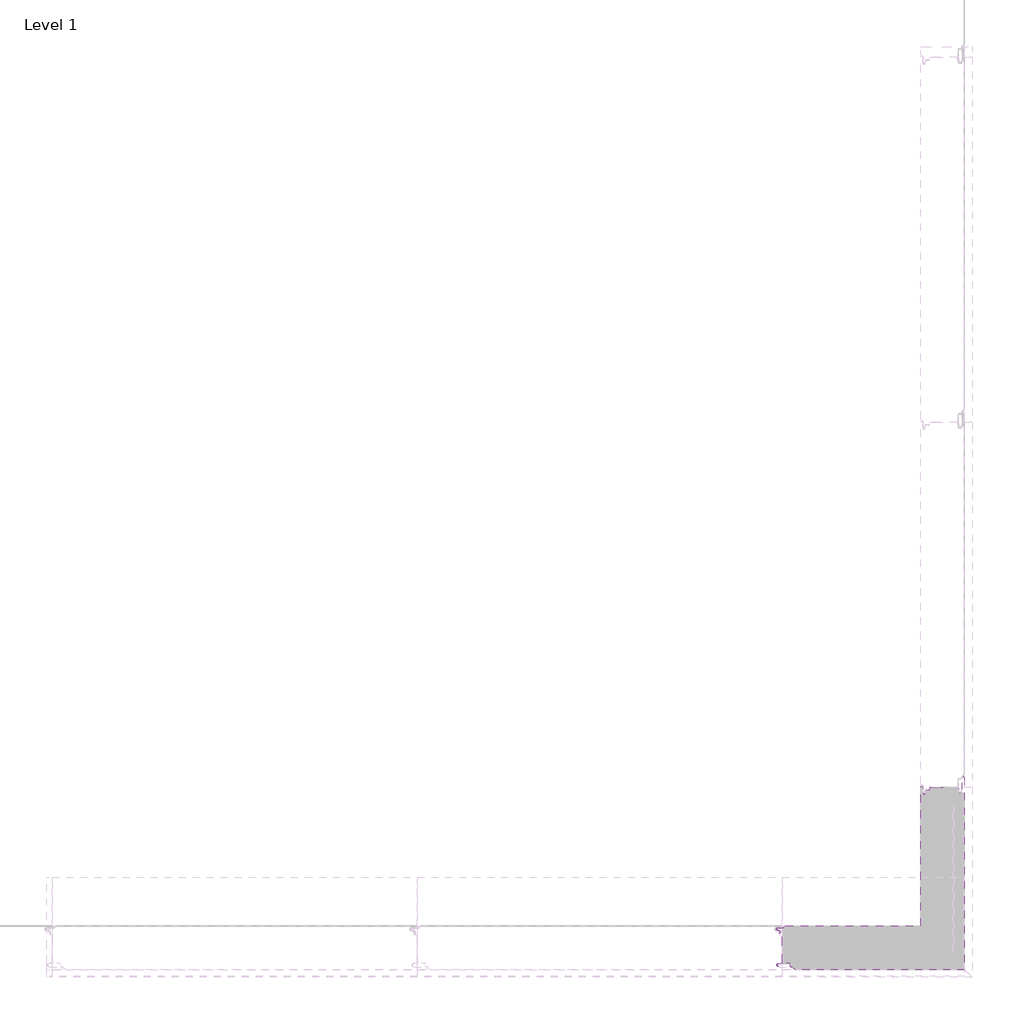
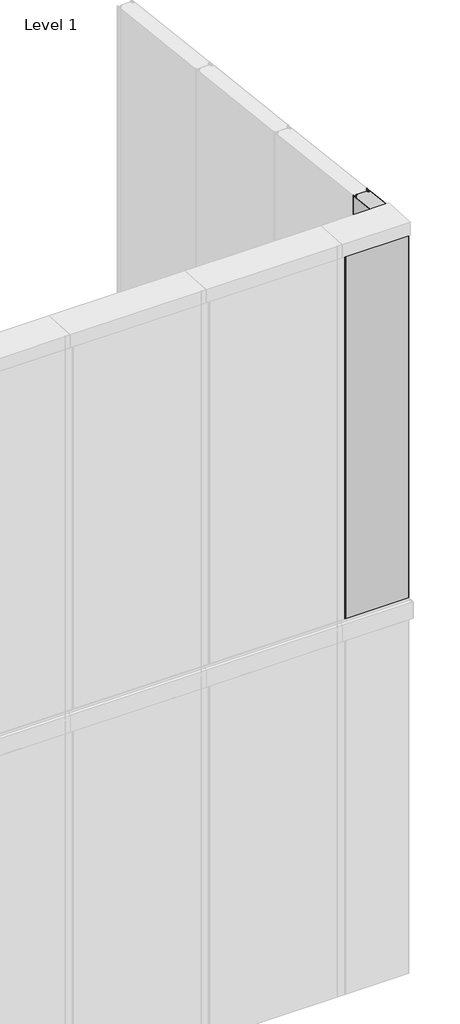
# One storey, part 5 of 12: 1 plate.
"""IFC4 building model written with IfcOpenShell, lengths in millimetres."""

from ifc_helpers import new_model, si_unit, point, frame, frame_2d, origin, place, context, project, spatial, polyline, circle_curve, ellipse_curve, trimmed, segment, composite_curve, outline, extrude, element, save
from ifc_brep_helpers import plane_surface, cylinder_surface, revolved_surface, advanced_brep

model = new_model("IFC4")

# Units and contexts
model_context = context("Model", 3, world=origin())
ifc_project = project(units=[si_unit("LENGTHUNIT", "METRE", prefix="MILLI")], contexts=[model_context])

# Site, building, storey
site = spatial("IfcSite", under=ifc_project)
building = spatial("IfcBuilding", under=site)
storey = spatial("IfcBuildingStorey", under=building, Name="Level 1", Elevation=0.0)

# Plate
placement = place(None, origin())
element("IfcPlate", 1, ObjectType="TR_C_V_FHL_Corner_Long_B : 120/RAL9006/RAL9002", at=placement, inside=storey, context=model_context, shape_type="SolidModel", body=[
    extrude(outline(composite_curve([segment(polyline([(-4113.3155057, 4088.8069121), (-4483.9373314, 4088.8069121)]), True, "CONTINUOUS"), segment(trimmed(circle_curve(frame_2d((-4483.9373314, 4086.6069121)), 2.2), [point((-4483.9373314, 4088.8069121))], [point((-4485.4929663, 4088.162547))], True, "CARTESIAN"), True, "CONTINUOUS"), segment(polyline([(-4485.4929663, 4088.162547), (-4489.8820536, 4083.7734598)]), True, "CONTINUOUS"), segment(trimmed(circle_curve(frame_2d((-4492.215506, 4086.1069121)), 3.3), [point((-4489.8820536, 4083.7734598))], [point((-4492.215506, 4082.8069121))], False, "CARTESIAN"), True, "CONTINUOUS"), segment(polyline([(-4492.215506, 4082.8069121), (-4506.965506, 4082.8069121)]), True, "CONTINUOUS"), segment(trimmed(circle_curve(frame_2d((-4506.965506, 4080.3569121)), 2.45), [point((-4506.965506, 4082.8069121))], [point((-4507.390944, 4077.9441331))], True, "CARTESIAN"), True, "CONTINUOUS"), segment(polyline([(-4507.390944, 4077.9441331), (-4503.1754067, 4077.2008202)]), True, "CONTINUOUS"), segment(trimmed(circle_curve(frame_2d((-4503.965506, 4072.7199449)), 4.55), [point((-4503.1754067, 4077.2008202))], [point((-4499.415506, 4072.7199449))], False, "CARTESIAN"), True, "CONTINUOUS"), segment(polyline([(-4499.415506, 4072.7199449), (-4499.415506, 4068.6069121), (-4500.215506, 4068.6069121), (-4500.215506, 4072.7199449)]), True, "CONTINUOUS"), segment(trimmed(circle_curve(frame_2d((-4503.965506, 4072.7199449)), 3.75), [point((-4500.215506, 4072.7199449))], [point((-4503.3143253, 4076.412974))], True, "CARTESIAN"), True, "CONTINUOUS"), segment(polyline([(-4503.3143253, 4076.412974), (-4507.5298625, 4077.1562869)]), True, "CONTINUOUS"), segment(trimmed(circle_curve(frame_2d((-4506.965506, 4080.3569121)), 3.25), [point((-4507.5298625, 4077.1562869))], [point((-4506.965506, 4083.6069121))], False, "CARTESIAN"), True, "CONTINUOUS"), segment(polyline([(-4506.965506, 4083.6069121), (-4492.215506, 4083.6069121)]), True, "CONTINUOUS"), segment(trimmed(circle_curve(frame_2d((-4492.215506, 4086.1069121)), 2.5), [point((-4492.215506, 4083.6069121))], [point((-4490.447739, 4084.3391452))], True, "CARTESIAN"), True, "CONTINUOUS"), segment(polyline([(-4490.447739, 4084.3391452), (-4486.0586517, 4088.7282325)]), True, "CONTINUOUS"), segment(trimmed(circle_curve(frame_2d((-4483.9373314, 4086.6069121)), 3.0), [point((-4486.0586517, 4088.7282325))], [point((-4483.9373314, 4089.6069121))], False, "CARTESIAN"), True, "CONTINUOUS"), segment(polyline([(-4483.9373314, 4089.6069121), (-4114.1155057, 4089.6069121), (-4113.3155057, 4088.8069121)]), True, "CONTINUOUS")], self_intersect=False)), frame((0.0, 0.0, 3000.0), z_axis=(0.0, 0.0, 1.0), x_axis=(1.0, 0.0, 0.0)), (0.0, 0.0, 1.0), 2980.0),
    extrude(outline(composite_curve([segment(polyline([(-3994.1155058, 3969.6069121), (-4457.5525855, 3969.6069121)]), True, "CONTINUOUS"), segment(trimmed(circle_curve(frame_2d((-4457.5525855, 3972.3069121)), 2.7), [point((-4457.5525855, 3969.6069121))], [point((-4459.4617738, 3970.3977238))], False, "CARTESIAN"), True, "CONTINUOUS"), segment(polyline([(-4459.4617738, 3970.3977238), (-4464.2851757, 3975.2211257)]), True, "CONTINUOUS"), segment(trimmed(circle_curve(frame_2d((-4465.6993893, 3973.8069121)), 2.0), [point((-4464.2851757, 3975.2211257))], [point((-4465.6993893, 3975.8069121))], True, "CARTESIAN"), True, "CONTINUOUS"), segment(polyline([(-4465.6993893, 3975.8069121), (-4468.5155058, 3975.8069121)]), True, "CONTINUOUS"), segment(trimmed(circle_curve(frame_2d((-4468.5155058, 3978.5069121)), 2.7), [point((-4468.5155058, 3975.8069121))], [point((-4471.2155058, 3978.5069121))], False, "CARTESIAN"), True, "CONTINUOUS"), segment(polyline([(-4471.2155058, 3978.5069121), (-4471.2155058, 3984.4069121)]), True, "CONTINUOUS"), segment(trimmed(circle_curve(frame_2d((-4473.2155058, 3984.4069121)), 2.0), [point((-4471.2155058, 3984.4069121))], [point((-4473.2155058, 3986.4069121))], True, "CARTESIAN"), True, "CONTINUOUS"), segment(polyline([(-4473.2155058, 3986.4069121), (-4492.3155058, 3986.4069121), (-4504.7944042, 3985.31515)]), True, "CONTINUOUS"), segment(trimmed(circle_curve(frame_2d((-4504.5155058, 3982.127327)), 3.2), [point((-4504.7944042, 3985.31515))], [point((-4505.5573239, 3979.1016675))], True, "CARTESIAN"), True, "CONTINUOUS"), segment(polyline([(-4505.5573239, 3979.1016675), (-4504.658139, 3978.7920533), (-4504.9185935, 3978.0356385), (-4505.8177784, 3978.3452527)]), True, "CONTINUOUS"), segment(trimmed(circle_curve(frame_2d((-4504.5155058, 3982.127327)), 4.0), [point((-4505.8177784, 3978.3452527))], [point((-4504.8641288, 3986.1121057))], False, "CARTESIAN"), True, "CONTINUOUS"), segment(polyline([(-4504.8641288, 3986.1121057), (-4492.3504346, 3987.2069121), (-4473.2155058, 3987.2069121)]), True, "CONTINUOUS"), segment(trimmed(circle_curve(frame_2d((-4473.2155058, 3984.4069121)), 2.8), [point((-4473.2155058, 3987.2069121))], [point((-4470.4155058, 3984.4069121))], False, "CARTESIAN"), True, "CONTINUOUS"), segment(polyline([(-4470.4155058, 3984.4069121), (-4470.4155058, 3978.5069121)]), True, "CONTINUOUS"), segment(trimmed(circle_curve(frame_2d((-4468.5155058, 3978.5069121)), 1.9), [point((-4470.4155058, 3978.5069121))], [point((-4468.5155058, 3976.6069121))], True, "CARTESIAN"), True, "CONTINUOUS"), segment(polyline([(-4468.5155058, 3976.6069121), (-4465.6993893, 3976.6069121)]), True, "CONTINUOUS"), segment(trimmed(circle_curve(frame_2d((-4465.6993893, 3973.8069121)), 2.8), [point((-4465.6993893, 3976.6069121))], [point((-4463.7194903, 3975.7868111))], False, "CARTESIAN"), True, "CONTINUOUS"), segment(polyline([(-4463.7194903, 3975.7868111), (-4458.8960884, 3970.9634092)]), True, "CONTINUOUS"), segment(trimmed(circle_curve(frame_2d((-4457.5525855, 3972.3069121)), 1.9), [point((-4458.8960884, 3970.9634092))], [point((-4457.5525855, 3970.4069121))], True, "CARTESIAN"), True, "CONTINUOUS"), segment(polyline([(-4457.5525855, 3970.4069121), (-3994.9155057, 3970.4069121), (-3994.1155058, 3969.6069121)]), True, "CONTINUOUS")], self_intersect=False)), frame((0.0, 0.0, 3000.0), z_axis=(0.0, 0.0, 1.0), x_axis=(1.0, 0.0, 0.0)), (0.0, 0.0, 1.0), 2980.0),
    advanced_brep(
    [(-3994.9741101, 4496.682184, 3000.0), (-3996.9197088, 4498.4964842, 3000.0), (-3996.9197088, 4498.4964842, 5932.4547009), (-3994.9741101, 4496.682184, 5932.6656661), (-3994.1155057, 3969.606912, 3000.0), (-3994.9155057, 3970.4069121, 3000.0), (-3994.9155057, 4494.707529, 3000.0), (-3995.5197088, 4496.0971011, 3000.0), (-3997.4653075, 4497.9114012, 3000.0), (-3999.3155057, 4497.1069121, 3000.0), (-3999.3155057, 4464.7801839, 3000.0), (-3999.4952944, 4463.705809, 3000.0), (-4001.8344941, 4456.9122797, 3000.0), (-4011.3488891, 4458.0805005, 3000.0), (-4012.2128026, 4467.9550769, 3000.0), (-4013.9063336, 4469.5069121, 3000.0), (-4014.9155057, 4469.5069121, 3000.0), (-4014.9155057, 4470.3069121, 3000.0), (-4013.9063336, 4470.3069121, 3000.0), (-4011.4158468, 4468.0248015, 3000.0), (-4010.5519334, 4458.1502251, 3000.0), (-4002.5909089, 4457.1727343, 3000.0), (-4000.2517092, 4463.9662635, 3000.0), (-4000.1155057, 4464.7801839, 3000.0), (-4000.1155057, 4497.1069121, 3000.0), (-3994.1155057, 4494.707529, 3000.0), (-3994.1155057, 3969.606912, 5980.0), (-3994.9155057, 3970.4069121, 5980.0), (-3994.1155057, 4494.707529, 5932.8952771), (-3994.1155057, 4089.6069121, 5980.0), (-4000.1155057, 4497.1069121, 5932.6162791), (-4000.1155057, 4464.7801839, 5936.375201), (-4000.2517092, 4463.9662635, 5936.4698429), (-4002.5909089, 4457.1727343, 5937.2597881), (-4010.5519334, 4458.1502251, 5937.1461264), (-4011.4158468, 4468.0248015, 5935.9979198), (-4013.9063336, 4470.3069121, 5935.7325581), (-4014.9155057, 4470.3069121, 5935.7325581), (-4014.9155057, 4469.5069121, 5935.8255814), (-4013.9063336, 4469.5069121, 5935.8255814), (-4012.2128026, 4467.9550769, 5936.0060274), (-4011.3488891, 4458.0805005, 5937.1542339), (-4001.8344941, 4456.9122797, 5937.2900735), (-3999.4952944, 4463.705809, 5936.5001283), (-3999.3155057, 4464.7801839, 5936.375201), (-3999.3155057, 4497.1069121, 5932.6162791), (-3997.4653075, 4497.9114012, 5932.5227338), (-3995.5197088, 4496.0971011, 5932.733699), (-3994.9155057, 4494.707529, 5932.8952771), (-3994.9155057, 4089.6069121, 5980.0)],
    [
        (0, 1),
        (1, 2),
        (2, 3),
        (3, 0),
        (4, 5),
        (5, 6),
        (6, 7, circle_curve(frame((-3996.8155057, 4494.707529, 3000.0), z_axis=(0.0, 0.0, 1.0), x_axis=(0.0, 1.0, 0.0)), 1.9)),
        (7, 8),
        (8, 9, circle_curve(frame((-3998.2155057, 4497.1069121, 3000.0), z_axis=(0.0, 0.0, 1.0), x_axis=(0.0, 1.0, 0.0)), 1.1)),
        (9, 10),
        (10, 11, circle_curve(frame((-4002.6155057, 4464.7801839, 3000.0), z_axis=(0.0, 0.0, -1.0), x_axis=(0.0, 1.0, 0.0)), 3.3)),
        (11, 12),
        (12, 13, circle_curve(frame((-4006.4675351, 4458.5075637, 3000.0), z_axis=(0.0, 0.0, -1.0), x_axis=(0.0, 1.0, 0.0)), 4.9)),
        (13, 14),
        (14, 15, circle_curve(frame((-4013.9063336, 4467.8069121, 3000.0), z_axis=(0.0, 0.0, 1.0), x_axis=(0.0, 1.0, 0.0)), 1.7)),
        (15, 16),
        (16, 17),
        (17, 18),
        (18, 19, circle_curve(frame((-4013.9063336, 4467.8069121, 3000.0), z_axis=(0.0, 0.0, -1.0), x_axis=(0.0, 1.0, 0.0)), 2.5)),
        (19, 20),
        (20, 21, circle_curve(frame((-4006.4675351, 4458.5075637, 3000.0), z_axis=(0.0, 0.0, 1.0), x_axis=(0.0, 1.0, 0.0)), 4.1)),
        (21, 22),
        (22, 23, circle_curve(frame((-4002.6155057, 4464.7801839, 3000.0), z_axis=(0.0, 0.0, 1.0), x_axis=(0.0, 1.0, 0.0)), 2.5)),
        (23, 24),
        (24, 1, circle_curve(frame((-3998.2155057, 4497.1069121, 3000.0), z_axis=(0.0, 0.0, -1.0), x_axis=(0.0, 1.0, 0.0)), 1.9)),
        (0, 25, circle_curve(frame((-3996.8155057, 4494.707529, 3000.0), z_axis=(0.0, 0.0, -1.0), x_axis=(0.0, 1.0, 0.0)), 2.7)),
        (25, 4),
        (26, 27),
        (27, 5),
        (4, 26),
        (25, 28),
        (28, 29),
        (29, 26),
        (3, 28, ellipse_curve(frame((-3996.8155057, 4494.707529, 5932.8952771), z_axis=(0.0, -0.1155008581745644, -0.9933073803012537), x_axis=(0.0, -0.9933073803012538, 0.11550085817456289)), 2.7181918, 2.7)),
        (2, 30, ellipse_curve(frame((-3998.2155057, 4497.1069121, 5932.6162791), z_axis=(0.0, 0.1155008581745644, 0.9933073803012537), x_axis=(0.0, -0.9933073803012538, 0.11550085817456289)), 1.9128017, 1.9)),
        (30, 31),
        (31, 32, ellipse_curve(frame((-4002.6155057, 4464.7801839, 5936.375201), z_axis=(0.0, -0.1155008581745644, -0.9933073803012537), x_axis=(0.0, 0.9933073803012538, -0.11550085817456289)), 2.5168443, 2.5)),
        (32, 33),
        (33, 34, ellipse_curve(frame((-4006.4675351, 4458.5075637, 5937.1045754), z_axis=(0.0, -0.1155008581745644, -0.9933073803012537), x_axis=(0.0, 0.9933073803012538, -0.11550085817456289)), 4.1276246, 4.1)),
        (34, 35),
        (35, 36, ellipse_curve(frame((-4013.9063336, 4467.8069121, 5936.0232558), z_axis=(0.0, 0.1155008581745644, 0.9933073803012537), x_axis=(0.0, -0.9933073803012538, 0.11550085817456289)), 2.5168443, 2.5)),
        (36, 37),
        (37, 38),
        (38, 39),
        (39, 40, ellipse_curve(frame((-4013.9063336, 4467.8069121, 5936.0232558), z_axis=(0.0, -0.1155008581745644, -0.9933073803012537), x_axis=(0.0, 0.9933073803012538, -0.11550085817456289)), 1.7114541, 1.7)),
        (40, 41),
        (41, 42, ellipse_curve(frame((-4006.4675351, 4458.5075637, 5937.1045754), z_axis=(0.0, 0.1155008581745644, 0.9933073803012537), x_axis=(0.0, -0.9933073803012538, 0.11550085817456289)), 4.9330148, 4.9)),
        (42, 43),
        (43, 44, ellipse_curve(frame((-4002.6155057, 4464.7801839, 5936.375201), z_axis=(0.0, 0.1155008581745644, 0.9933073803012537), x_axis=(0.0, -0.9933073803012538, 0.11550085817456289)), 3.3222345, 3.3)),
        (44, 45),
        (45, 46, ellipse_curve(frame((-3998.2155057, 4497.1069121, 5932.6162791), z_axis=(0.0, -0.1155008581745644, -0.9933073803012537), x_axis=(0.0, 0.9933073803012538, -0.11550085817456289)), 1.1074115, 1.1)),
        (46, 47),
        (47, 48, ellipse_curve(frame((-3996.8155057, 4494.707529, 5932.8952771), z_axis=(0.0, -0.1155008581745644, -0.9933073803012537), x_axis=(0.0, 0.9933073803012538, -0.11550085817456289)), 1.9128017, 1.9)),
        (48, 49),
        (49, 29),
        (49, 27),
        (48, 6),
        (24, 30),
        (23, 31),
        (22, 32),
        (21, 33),
        (20, 34),
        (19, 35),
        (18, 36),
        (17, 37),
        (16, 38),
        (15, 39),
        (14, 40),
        (13, 41),
        (12, 42),
        (11, 43),
        (10, 44),
        (9, 45),
        (8, 46),
        (7, 47),
    ],
    [
        plane_surface(frame((-3994.9741101, 4496.682184, 5980.0), z_axis=(0.6819983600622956, 0.7313537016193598, 0.0), x_axis=(0.0, 0.0, -1.0))),
        plane_surface(frame((-3994.1155057, 4494.707529, 3000.0), z_axis=(0.0, 0.0, -1.0), x_axis=(0.0, -1.0, 0.0))),
        plane_surface(frame((-3994.9155057, 3970.4069121, 5980.0), z_axis=(-0.7071068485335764, -0.7071067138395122, 0.0), x_axis=(0.0, 0.0, -1.0))),
        plane_surface(frame((-3994.1155057, 3969.606912, 5980.0), z_axis=(1.0, 0.0, 0.0), x_axis=(0.0, 0.0, -1.0))),
        cylinder_surface(frame((-3996.8155057, 4494.707529, 3000.0), z_axis=(0.0, 0.0, 1.0), x_axis=(0.0, 1.0, 0.0)), 2.7),
        plane_surface(frame((-3994.1155057, 6239.6069121, 5730.0), z_axis=(0.0, 0.1155008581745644, 0.9933073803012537), x_axis=(0.0, -0.9933073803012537, 0.1155008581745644))),
        plane_surface(frame((-3994.1155057, 4494.707529, 5980.0), z_axis=(0.0, 0.0, 1.0), x_axis=(0.0, 1.0, 0.0))),
        plane_surface(frame((-3994.9155057, 4494.707529, 5980.0), z_axis=(-1.0, 0.0, 0.0), x_axis=(0.0, 0.0, -1.0))),
        cylinder_surface(frame((-3998.2155057, 4497.1069121, 3000.0), z_axis=(0.0, 0.0, 1.0), x_axis=(0.0, 1.0, 0.0)), 1.9),
        plane_surface(frame((-4000.1155057, 4497.1069121, 5980.0), z_axis=(-1.0, 0.0, 0.0), x_axis=(0.0, 0.0, -1.0))),
        revolved_surface(polyline([(-4002.6155057, 4467.2801839, 3000.0), (-4002.6155057, 4467.2801839, 5936.6658986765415)]), (-4002.6155057, 4464.7801839, 3000.0), (0.0, 0.0, -1.0)),
        plane_surface(frame((-4000.2517092, 4463.9662635, 5980.0), z_axis=(-0.9455185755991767, 0.3255681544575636, 0.0), x_axis=(0.0, 0.0, -1.0))),
        revolved_surface(polyline([(-4006.4675351, 4462.6075637, 3000.0), (-4006.4675351, 4462.6075637, 5937.581319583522)]), (-4006.4675351, 4458.5075637, 3000.0), (0.0, 0.0, -1.0)),
        plane_surface(frame((-4010.5519334, 4458.1502251, 5980.0), z_axis=(0.9961946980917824, 0.08715574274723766, 0.0), x_axis=(0.0, 0.0, -1.0))),
        cylinder_surface(frame((-4013.9063336, 4467.8069121, 3000.0), z_axis=(0.0, 0.0, 1.0), x_axis=(0.0, 1.0, 0.0)), 2.5),
        plane_surface(frame((-4013.9063336, 4470.3069121, 5980.0), z_axis=(0.0, 1.0, 0.0), x_axis=(0.0, 0.0, -1.0))),
        plane_surface(frame((-4014.9155057, 4470.3069121, 5980.0), z_axis=(-1.0, 0.0, 0.0), x_axis=(0.0, 0.0, -1.0))),
        plane_surface(frame((-4014.9155057, 4469.5069121, 5980.0), z_axis=(0.0, -1.0, 0.0), x_axis=(0.0, 0.0, -1.0))),
        revolved_surface(polyline([(-4013.9063336, 4469.5069121, 3000.0), (-4013.9063336, 4469.5069121, 5936.220930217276)]), (-4013.9063336, 4467.8069121, 3000.0), (0.0, 0.0, -1.0)),
        plane_surface(frame((-4012.2128026, 4467.9550769, 5980.0), z_axis=(-0.9961946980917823, -0.08715574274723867, 0.0), x_axis=(0.0, 0.0, -1.0))),
        cylinder_surface(frame((-4006.4675351, 4458.5075637, 3000.0), z_axis=(0.0, 0.0, 1.0), x_axis=(0.0, 1.0, 0.0)), 4.9),
        plane_surface(frame((-4001.8344941, 4456.9122797, 5980.0), z_axis=(0.9455185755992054, -0.3255681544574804, 0.0), x_axis=(0.0, 0.0, -1.0))),
        cylinder_surface(frame((-4002.6155057, 4464.7801839, 3000.0), z_axis=(0.0, 0.0, 1.0), x_axis=(0.0, 1.0, 0.0)), 3.3),
        plane_surface(frame((-3999.3155057, 4464.7801839, 5980.0), z_axis=(1.0, 0.0, 0.0), x_axis=(0.0, 0.0, -1.0))),
        revolved_surface(polyline([(-3998.2155057, 4498.2069121, 3000.0), (-3998.2155057, 4498.2069121, 5932.744186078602)]), (-3998.2155057, 4497.1069121, 3000.0), (0.0, 0.0, -1.0)),
        plane_surface(frame((-3997.4653075, 4497.9114012, 5980.0), z_axis=(-0.6819983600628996, -0.7313537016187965, 0.0), x_axis=(0.0, 0.0, -1.0))),
        revolved_surface(polyline([(-3996.8155057, 4496.607529, 3000.0), (-3996.8155057, 4496.607529, 5933.116207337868)]), (-3996.8155057, 4494.707529, 3000.0), (0.0, 0.0, -1.0)),
    ],
    [
        (0, [[1, 2, 3, 4]]),
        (1, [[5, 6, 7, 8, 9, 10, 11, 12, 13, 14, 15, 16, 17, 18, 19, 20, 21, 22, 23, 24, 25, -1, 26, 27]]),
        (2, [[28, 29, -5, 30]]),
        (3, [[-30, -27, 31, 32, 33]]),
        (4, [[-26, -4, 34, -31]]),
        (5, [[-3, 35, 36, 37, 38, 39, 40, 41, 42, 43, 44, 45, 46, 47, 48, 49, 50, 51, 52, 53, 54, 55, -32, -34]]),
        (6, [[-28, -33, -55, 56]]),
        (7, [[-29, -56, -54, 57, -6]]),
        (8, [[-25, 58, -35, -2]]),
        (9, [[-24, 59, -36, -58]]),
        (10, [[-23, 60, -37, -59]]),
        (11, [[-22, 61, -38, -60]]),
        (12, [[-21, 62, -39, -61]]),
        (13, [[-20, 63, -40, -62]]),
        (14, [[-19, 64, -41, -63]]),
        (15, [[-18, 65, -42, -64]]),
        (16, [[-17, 66, -43, -65]]),
        (17, [[-16, 67, -44, -66]]),
        (18, [[-15, 68, -45, -67]]),
        (19, [[-14, 69, -46, -68]]),
        (20, [[-13, 70, -47, -69]]),
        (21, [[-12, 71, -48, -70]]),
        (22, [[-11, 72, -49, -71]]),
        (23, [[-10, 73, -50, -72]]),
        (24, [[-9, 74, -51, -73]]),
        (25, [[-8, 75, -52, -74]]),
        (26, [[-7, -57, -53, -75]]),
    ],
),
    advanced_brep(
    [(-4099.4132474, 4459.2691743, 3000.0), (-4096.5080645, 4461.7069121, 3000.0), (-4096.5080645, 4461.7069121, 5936.7325581), (-4099.4132474, 4459.2691743, 5937.016016), (-4113.3155057, 4088.8069121, 3000.0), (-4114.1155057, 4089.6069121, 3000.0), (-4114.1155057, 4469.1255413, 3000.0), (-4113.3100493, 4471.0700849, 3000.0), (-4111.4443639, 4472.9357704, 3000.0), (-4108.1155057, 4471.5569121, 3000.0), (-4108.1155057, 4453.9569121, 3000.0), (-4101.2679189, 4453.3578259, 3000.0), (-4100.2010936, 4459.4080928, 3000.0), (-4096.5080645, 4462.5069121, 3000.0), (-4093.1155057, 4462.5069121, 3000.0), (-4093.1155057, 4461.7069121, 3000.0), (-4100.4800727, 4453.2189074, 3000.0), (-4108.9155057, 4453.9569121, 3000.0), (-4108.9155057, 4471.5569121, 3000.0), (-4110.8786785, 4472.3700849, 3000.0), (-4112.7443639, 4470.5043995, 3000.0), (-4113.3155057, 4469.1255413, 3000.0), (-4093.1155057, 4461.7069121, 5936.7325581), (-4093.1155057, 4462.5069121, 5936.6395349), (-4096.5080645, 4462.5069121, 5936.6395349), (-4100.2010936, 4459.4080928, 5936.9998627), (-4101.2679189, 4453.3578259, 5937.7033821), (-4108.1155057, 4453.9569121, 5937.6337209), (-4108.1155057, 4471.5569121, 5935.5872093), (-4111.4443639, 4472.9357704, 5935.426877), (-4113.3100493, 4471.0700849, 5935.6438171), (-4114.1155057, 4469.1255413, 5935.8699268), (-4114.1155057, 4089.6069121, 5980.0), (-4113.3155057, 4089.6069121, 5980.0), (-4113.3155057, 4469.1255413, 5935.8699268), (-4112.7443639, 4470.5043995, 5935.7095945), (-4110.8786785, 4472.3700849, 5935.4926543), (-4108.9155057, 4471.5569121, 5935.5872093), (-4108.9155057, 4453.9569121, 5937.6337209), (-4100.4800727, 4453.2189074, 5937.7195354), (-4113.3155057, 4088.8069121, 5980.0)],
    [
        (0, 1, circle_curve(frame((-4096.5080645, 4458.7569121, 3000.0), z_axis=(0.0, 0.0, -1.0), x_axis=(0.0, 1.0, 0.0)), 2.95)),
        (1, 2),
        (2, 3, ellipse_curve(frame((-4096.5080645, 4458.7569121, 5937.0755814), z_axis=(0.0, 0.1155008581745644, 0.9933073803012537), x_axis=(0.0, 0.9933073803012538, -0.11550085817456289)), 2.9698763, 2.95)),
        (3, 0),
        (4, 5),
        (5, 6),
        (6, 7, circle_curve(frame((-4111.3655057, 4469.1255413, 3000.0), z_axis=(0.0, 0.0, -1.0), x_axis=(0.0, 1.0, 0.0)), 2.75)),
        (7, 8),
        (8, 9, circle_curve(frame((-4110.0655057, 4471.5569121, 3000.0), z_axis=(0.0, 0.0, -1.0), x_axis=(0.0, 1.0, 0.0)), 1.95)),
        (9, 10),
        (10, 11, circle_curve(frame((-4104.6655057, 4453.9569121, 3000.0), z_axis=(0.0, 0.0, 1.0), x_axis=(0.0, 1.0, 0.0)), 3.45)),
        (11, 12),
        (12, 13, circle_curve(frame((-4096.5080645, 4458.7569121, 3000.0), z_axis=(0.0, 0.0, -1.0), x_axis=(0.0, 1.0, 0.0)), 3.75)),
        (13, 14),
        (14, 15),
        (15, 1),
        (0, 16),
        (16, 17, circle_curve(frame((-4104.6655057, 4453.9569121, 3000.0), z_axis=(0.0, 0.0, -1.0), x_axis=(0.0, 1.0, 0.0)), 4.25)),
        (17, 18),
        (18, 19, circle_curve(frame((-4110.0655057, 4471.5569121, 3000.0), z_axis=(0.0, 0.0, 1.0), x_axis=(0.0, 1.0, 0.0)), 1.15)),
        (19, 20),
        (20, 21, circle_curve(frame((-4111.3655057, 4469.1255413, 3000.0), z_axis=(0.0, 0.0, 1.0), x_axis=(0.0, 1.0, 0.0)), 1.95)),
        (21, 4),
        (2, 22),
        (22, 23),
        (23, 24),
        (24, 25, ellipse_curve(frame((-4096.5080645, 4458.7569121, 5937.0755814), z_axis=(0.0, 0.1155008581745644, 0.9933073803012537), x_axis=(0.0, -0.9933073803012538, 0.11550085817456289)), 3.7752664, 3.75)),
        (25, 26),
        (26, 27, ellipse_curve(frame((-4104.6655057, 4453.9569121, 5937.6337209), z_axis=(0.0, -0.1155008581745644, -0.9933073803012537), x_axis=(0.0, 0.9933073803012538, -0.11550085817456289)), 3.4732451, 3.45)),
        (27, 28),
        (28, 29, ellipse_curve(frame((-4110.0655057, 4471.5569121, 5935.5872093), z_axis=(0.0, 0.1155008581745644, 0.9933073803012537), x_axis=(0.0, -0.9933073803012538, 0.11550085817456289)), 1.9631385, 1.95)),
        (29, 30),
        (30, 31, ellipse_curve(frame((-4111.3655057, 4469.1255413, 5935.8699268), z_axis=(0.0, 0.1155008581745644, 0.9933073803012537), x_axis=(0.0, -0.9933073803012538, 0.11550085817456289)), 2.7685287, 2.75)),
        (31, 32),
        (32, 33),
        (33, 34),
        (34, 35, ellipse_curve(frame((-4111.3655057, 4469.1255413, 5935.8699268), z_axis=(0.0, -0.1155008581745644, -0.9933073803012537), x_axis=(0.0, 0.9933073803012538, -0.11550085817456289)), 1.9631385, 1.95)),
        (35, 36),
        (36, 37, ellipse_curve(frame((-4110.0655057, 4471.5569121, 5935.5872093), z_axis=(0.0, -0.1155008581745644, -0.9933073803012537), x_axis=(0.0, 0.9933073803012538, -0.11550085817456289)), 1.1577484, 1.15)),
        (37, 38),
        (38, 39, ellipse_curve(frame((-4104.6655057, 4453.9569121, 5937.6337209), z_axis=(0.0, 0.1155008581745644, 0.9933073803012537), x_axis=(0.0, -0.9933073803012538, 0.11550085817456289)), 4.2786353, 4.25)),
        (39, 3),
        (32, 40),
        (40, 33),
        (5, 32),
        (31, 6),
        (4, 40),
        (21, 34),
        (20, 35),
        (19, 36),
        (18, 37),
        (17, 38),
        (16, 39),
        (15, 22),
        (14, 23),
        (13, 24),
        (11, 26),
        (25, 12),
        (10, 27),
        (9, 28),
        (8, 29),
        (7, 30),
    ],
    [
        revolved_surface(polyline([(-4096.5080645, 4461.7069120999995, 3000.0), (-4096.5080645, 4461.7069120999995, 5937.418604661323)]), (-4096.5080645, 4458.7569121, 3000.0), (0.0, 0.0, -1.0)),
        plane_surface(frame((-4113.3155057, 4469.1255413, 3000.0), z_axis=(0.0, 0.0, -1.0), x_axis=(0.0, -1.0, 0.0))),
        plane_surface(frame((-3994.1155057, 6239.6069121, 5730.0), z_axis=(0.0, 0.1155008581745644, 0.9933073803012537), x_axis=(0.0, -0.9933073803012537, 0.1155008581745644))),
        plane_surface(frame((-4113.3155057, 4469.1255413, 5980.0), z_axis=(0.0, 0.0, 1.0), x_axis=(0.0, 1.0, 0.0))),
        plane_surface(frame((-4114.1155057, 4469.1255413, 5980.0), z_axis=(-1.0, 0.0, 0.0), x_axis=(0.0, 0.0, -1.0))),
        plane_surface(frame((-4114.1155057, 4089.6069121, 5980.0), z_axis=(-0.7071067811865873, -0.7071067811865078, 0.0), x_axis=(0.0, 0.0, -1.0))),
        plane_surface(frame((-4113.3155057, 4088.8069121, 5980.0), z_axis=(1.0, 0.0, 0.0), x_axis=(0.0, 0.0, -1.0))),
        revolved_surface(polyline([(-4111.3655057, 4471.0755413, 3000.0), (-4111.3655057, 4471.0755413, 5936.096670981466)]), (-4111.3655057, 4469.1255413, 3000.0), (0.0, 0.0, -1.0)),
        plane_surface(frame((-4112.7443639, 4470.5043995, 5980.0), z_axis=(0.7071067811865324, -0.7071067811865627, 0.0), x_axis=(0.0, 0.0, -1.0))),
        revolved_surface(polyline([(-4110.0655057, 4472.7069120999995, 3000.0), (-4110.0655057, 4472.7069120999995, 5935.720930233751)]), (-4110.0655057, 4471.5569121, 3000.0), (0.0, 0.0, -1.0)),
        plane_surface(frame((-4108.9155057, 4471.5569121, 5980.0), z_axis=(-1.0, 0.0, 0.0), x_axis=(0.0, 0.0, -1.0))),
        cylinder_surface(frame((-4104.6655057, 4453.9569121, 3000.0), z_axis=(0.0, 0.0, 1.0), x_axis=(0.0, 1.0, 0.0)), 4.25),
        plane_surface(frame((-4100.4800727, 4453.2189074, 5980.0), z_axis=(0.9848077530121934, -0.17364817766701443, 0.0), x_axis=(0.0, 0.0, -1.0))),
        plane_surface(frame((-4096.5080645, 4461.7069121, 5980.0), z_axis=(0.0, -1.0, 0.0), x_axis=(0.0, 0.0, -1.0))),
        plane_surface(frame((-4093.1155057, 4461.7069121, 5980.0), z_axis=(1.0, 0.0, 0.0), x_axis=(0.0, 0.0, -1.0))),
        plane_surface(frame((-4093.1155057, 4462.5069121, 5980.0), z_axis=(0.0, 1.0, 0.0), x_axis=(0.0, 0.0, -1.0))),
        plane_surface(frame((-4100.2010936, 4459.4080928, 5980.0), z_axis=(-0.9848077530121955, 0.173648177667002, 0.0), x_axis=(0.0, 0.0, -1.0))),
        revolved_surface(polyline([(-4104.6655057, 4457.4069121, 3000.0), (-4104.6655057, 4457.4069121, 5938.034883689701)]), (-4104.6655057, 4453.9569121, 3000.0), (0.0, 0.0, -1.0)),
        plane_surface(frame((-4108.1155057, 4453.9569121, 5980.0), z_axis=(1.0, 0.0, 0.0), x_axis=(0.0, 0.0, -1.0))),
        cylinder_surface(frame((-4110.0655057, 4471.5569121, 3000.0), z_axis=(0.0, 0.0, 1.0), x_axis=(0.0, 1.0, 0.0)), 1.95),
        plane_surface(frame((-4111.4443639, 4472.9357704, 5980.0), z_axis=(-0.7071067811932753, 0.7071067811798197, 0.0), x_axis=(0.0, 0.0, -1.0))),
        cylinder_surface(frame((-4111.3655057, 4469.1255413, 3000.0), z_axis=(0.0, 0.0, 1.0), x_axis=(0.0, 1.0, 0.0)), 2.75),
        cylinder_surface(frame((-4096.5080645, 4458.7569121, 3000.0), z_axis=(0.0, 0.0, 1.0), x_axis=(0.0, 1.0, 0.0)), 3.75),
    ],
    [
        (0, [[1, 2, 3, 4]]),
        (1, [[5, 6, 7, 8, 9, 10, 11, 12, 13, 14, 15, 16, -1, 17, 18, 19, 20, 21, 22, 23]]),
        (2, [[-3, 24, 25, 26, 27, 28, 29, 30, 31, 32, 33, 34, 35, 36, 37, 38, 39, 40, 41, 42]]),
        (3, [[43, 44, -35]]),
        (4, [[45, -34, 46, -6]]),
        (5, [[-45, -5, 47, -43]]),
        (6, [[-47, -23, 48, -36, -44]]),
        (7, [[-22, 49, -37, -48]]),
        (8, [[-21, 50, -38, -49]]),
        (9, [[-20, 51, -39, -50]]),
        (10, [[-19, 52, -40, -51]]),
        (11, [[-18, 53, -41, -52]]),
        (12, [[-17, -4, -42, -53]]),
        (13, [[-16, 54, -24, -2]]),
        (14, [[-15, 55, -25, -54]]),
        (15, [[-14, 56, -26, -55]]),
        (16, [[-12, 57, -28, 58]]),
        (17, [[-11, 59, -29, -57]]),
        (18, [[-10, 60, -30, -59]]),
        (19, [[-9, 61, -31, -60]]),
        (20, [[-8, 62, -32, -61]]),
        (21, [[-7, -46, -33, -62]]),
        (22, [[-13, -58, -27, -56]]),
    ],
),
    extrude(outline(composite_curve([segment(polyline([(-3994.9155057, 3970.4069121), (-4457.5525855, 3970.4069121)]), True, "CONTINUOUS"), segment(trimmed(circle_curve(frame_2d((-4457.5525855, 3972.3069121)), 1.9), [point((-4457.5525855, 3970.4069121))], [point((-4458.8960884, 3970.9634092))], False, "CARTESIAN"), True, "CONTINUOUS"), segment(polyline([(-4458.8960884, 3970.9634092), (-4463.7194903, 3975.7868111)]), True, "CONTINUOUS"), segment(trimmed(circle_curve(frame_2d((-4465.6993893, 3973.8069121)), 2.8), [point((-4463.7194903, 3975.7868111))], [point((-4465.6993893, 3976.6069121))], True, "CARTESIAN"), True, "CONTINUOUS"), segment(polyline([(-4465.6993893, 3976.6069121), (-4468.5155058, 3976.6069121)]), True, "CONTINUOUS"), segment(trimmed(circle_curve(frame_2d((-4468.5155058, 3978.5069121)), 1.9), [point((-4468.5155058, 3976.6069121))], [point((-4470.4155058, 3978.5069121))], False, "CARTESIAN"), True, "CONTINUOUS"), segment(polyline([(-4470.4155058, 3978.5069121), (-4470.4155058, 3984.4069121)]), True, "CONTINUOUS"), segment(trimmed(circle_curve(frame_2d((-4473.2155058, 3984.4069121)), 2.8), [point((-4470.4155058, 3984.4069121))], [point((-4473.2155058, 3987.2069121))], True, "CARTESIAN"), True, "CONTINUOUS"), segment(polyline([(-4473.2155058, 3987.2069121), (-4492.3504346, 3987.2069121), (-4494.1155061, 3987.0524884), (-4494.1155061, 4082.8069121), (-4492.2155058, 4082.8069121)]), True, "CONTINUOUS"), segment(trimmed(circle_curve(frame_2d((-4492.2155058, 4086.1069121)), 3.3), [point((-4492.2155058, 4082.8069121))], [point((-4489.8820534, 4083.7734598))], True, "CARTESIAN"), True, "CONTINUOUS"), segment(polyline([(-4489.8820534, 4083.7734598), (-4485.4929661, 4088.162547)]), True, "CONTINUOUS"), segment(trimmed(circle_curve(frame_2d((-4483.9373312, 4086.6069121)), 2.2), [point((-4485.4929661, 4088.162547))], [point((-4483.9373312, 4088.8069121))], False, "CARTESIAN"), True, "CONTINUOUS"), segment(polyline([(-4483.9373312, 4088.8069121), (-4113.3155057, 4088.8069121), (-3994.9155057, 3970.4069121)]), True, "CONTINUOUS")], self_intersect=False)), frame((0.0, 0.0, 3000.0), z_axis=(0.0, 0.0, 1.0), x_axis=(1.0, 0.0, 0.0)), (0.0, 0.0, 1.0), 2980.0),
    advanced_brep(
    [(-4113.3155057, 4089.6069121, 5980.0), (-3994.9155057, 4089.6069121, 5980.0), (-3994.9155057, 4453.6075637, 5937.6743428), (-4006.4675351, 4453.6075637, 5937.6743428), (-4011.3488891, 4458.0805005, 5937.1542339), (-4012.2128026, 4467.9550769, 5936.0060274), (-4013.9063336, 4469.5069121, 5935.8255814), (-4014.9155057, 4469.6069121, 5935.8139535), (-4088.9755057, 4469.6069121, 5935.8139535), (-4088.9755057, 4461.7069121, 5936.7325581), (-4096.5080645, 4461.7069121, 5936.7325581), (-4099.4132474, 4459.2691743, 5937.016016), (-4100.4800727, 4453.2189074, 5937.7195354), (-4104.6655057, 4449.7069121, 5938.127907), (-4113.3155057, 4449.7069121, 5938.127907), (-4113.3155057, 4088.8069121, 5980.0), (-3994.9155057, 3970.4069121, 5980.0), (-3994.9155057, 3970.4069121, 3000.0), (-4113.3155057, 4088.8069121, 3000.0), (-4113.3155057, 4449.7069121, 3000.0), (-4104.6655057, 4449.7069121, 3000.0), (-4100.4800727, 4453.2189074, 3000.0), (-4099.4132474, 4459.2691743, 3000.0), (-4096.5080645, 4461.7069121, 3000.0), (-4088.9755057, 4461.7069121, 3000.0), (-4088.9755057, 4469.6069121, 3000.0), (-4014.9155057, 4469.6069121, 3000.0), (-4013.9063336, 4469.5069121, 3000.0), (-4012.2128026, 4467.9550769, 3000.0), (-4011.3488891, 4458.0805005, 3000.0), (-4006.4675351, 4453.6075637, 3000.0), (-3994.9155057, 4453.6075637, 3000.0)],
    [
        (0, 1),
        (1, 2),
        (2, 3),
        (3, 4, ellipse_curve(frame((-4006.4675351, 4458.5075637, 5937.1045754), z_axis=(0.0, -0.1155008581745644, -0.9933073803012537), x_axis=(0.0, 0.9933073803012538, -0.11550085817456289)), 4.9330148, 4.9)),
        (4, 5),
        (5, 6, ellipse_curve(frame((-4013.9063336, 4467.8069121, 5936.0232558), z_axis=(0.0, 0.1155008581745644, 0.9933073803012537), x_axis=(0.0, -0.9933073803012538, 0.11550085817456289)), 1.7114541, 1.7)),
        (6, 7),
        (7, 8),
        (8, 9),
        (9, 10),
        (10, 11, ellipse_curve(frame((-4096.5080645, 4458.7569121, 5937.0755814), z_axis=(0.0, 0.1155008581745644, 0.9933073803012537), x_axis=(0.0, -0.9933073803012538, 0.11550085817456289)), 2.9698763, 2.95)),
        (11, 12),
        (12, 13, ellipse_curve(frame((-4104.6655057, 4453.9569121, 5937.6337209), z_axis=(0.0, -0.1155008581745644, -0.9933073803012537), x_axis=(0.0, 0.9933073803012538, -0.11550085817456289)), 4.2786353, 4.25)),
        (13, 14),
        (14, 0),
        (15, 16),
        (16, 1),
        (0, 15),
        (17, 18),
        (18, 19),
        (19, 20),
        (20, 21, circle_curve(frame((-4104.6655057, 4453.9569121, 3000.0), z_axis=(0.0, 0.0, 1.0), x_axis=(1.0, 0.0, 0.0)), 4.25)),
        (21, 22),
        (22, 23, circle_curve(frame((-4096.5080645, 4458.7569121, 3000.0), z_axis=(0.0, 0.0, -1.0), x_axis=(1.0, 0.0, 0.0)), 2.95)),
        (23, 24),
        (24, 25),
        (25, 26),
        (26, 27),
        (27, 28, circle_curve(frame((-4013.9063336, 4467.8069121, 3000.0), z_axis=(0.0, 0.0, -1.0), x_axis=(1.0, 0.0, 0.0)), 1.7)),
        (28, 29),
        (29, 30, circle_curve(frame((-4006.4675351, 4458.5075637, 3000.0), z_axis=(0.0, 0.0, 1.0), x_axis=(1.0, 0.0, 0.0)), 4.9)),
        (30, 31),
        (31, 17),
        (18, 15),
        (14, 19),
        (17, 16),
        (31, 2),
        (25, 8),
        (7, 26),
        (30, 3),
        (29, 4),
        (28, 5),
        (27, 6),
        (24, 9),
        (23, 10),
        (21, 12),
        (11, 22),
        (20, 13),
    ],
    [
        plane_surface(frame((-3994.1155057, 6239.6069121, 5730.0), z_axis=(0.0, 0.1155008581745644, 0.9933073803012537), x_axis=(0.0, -0.9933073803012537, 0.1155008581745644))),
        plane_surface(frame((-3994.9155057, 4453.6075637, 5980.0), z_axis=(0.0, 0.0, 1.0), x_axis=(0.0, 1.0, 0.0))),
        plane_surface(frame((-3994.9155057, 4453.6075637, 3000.0), z_axis=(0.0, 0.0, -1.0), x_axis=(0.0, -1.0, 0.0))),
        plane_surface(frame((-4113.3155057, 4449.7069121, 5980.0), z_axis=(-1.0, 0.0, 0.0), x_axis=(0.0, 0.0, -1.0))),
        plane_surface(frame((-4113.3155057, 4088.8069121, 5980.0), z_axis=(-0.7071067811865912, -0.7071067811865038, 0.0), x_axis=(0.0, 0.0, -1.0))),
        plane_surface(frame((-3994.9155057, 3970.4069121, 5980.0), z_axis=(1.0, 0.0, 0.0), x_axis=(0.0, 0.0, -1.0))),
        plane_surface(frame((-4014.9155057, 4469.6069121, 5980.0), z_axis=(0.0, 1.0, 0.0), x_axis=(0.0, 0.0, -1.0))),
        plane_surface(frame((-3994.9155057, 4453.6075637, 5980.0), z_axis=(0.0, 1.0, 0.0), x_axis=(0.0, 0.0, -1.0))),
        revolved_surface(polyline([(-4001.5675351, 4458.5075637, 3000.0), (-4001.5675351, 4458.5075637, 5937.674342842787)]), (-4006.4675351, 4458.5075637, 3000.0), (0.0, 0.0, -1.0)),
        plane_surface(frame((-4011.3488891, 4458.0805005, 5980.0), z_axis=(0.9961946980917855, 0.08715574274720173, 0.0), x_axis=(0.0, 0.0, -1.0))),
        cylinder_surface(frame((-4013.9063336, 4467.8069121, 3000.0), z_axis=(0.0, 0.0, 1.0), x_axis=(1.0, 0.0, 0.0)), 1.7),
        plane_surface(frame((-4013.9063336, 4469.5069121, 5980.0), z_axis=(0.09860819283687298, 0.9951263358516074, 0.0), x_axis=(0.0, 0.0, -1.0))),
        plane_surface(frame((-4088.9755057, 4469.6069121, 5980.0), z_axis=(-1.0, 0.0, 0.0), x_axis=(0.0, 0.0, -1.0))),
        plane_surface(frame((-4088.9755057, 4461.7069121, 5980.0), z_axis=(0.0, 1.0, 0.0), x_axis=(0.0, 0.0, -1.0))),
        plane_surface(frame((-4099.4132474, 4459.2691743, 5980.0), z_axis=(-0.9848077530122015, 0.17364817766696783, 0.0), x_axis=(0.0, 0.0, -1.0))),
        revolved_surface(polyline([(-4100.4155057, 4453.9569121, 3000.0), (-4100.4155057, 4453.9569121, 5938.127907)]), (-4104.6655057, 4453.9569121, 3000.0), (0.0, 0.0, -1.0)),
        plane_surface(frame((-4104.6655057, 4449.7069121, 5980.0), z_axis=(0.0, 1.0, 0.0), x_axis=(0.0, 0.0, -1.0))),
        cylinder_surface(frame((-4096.5080645, 4458.7569121, 3000.0), z_axis=(0.0, 0.0, 1.0), x_axis=(1.0, 0.0, 0.0)), 2.95),
    ],
    [
        (0, [[1, 2, 3, 4, 5, 6, 7, 8, 9, 10, 11, 12, 13, 14, 15]]),
        (1, [[16, 17, -1, 18]]),
        (2, [[19, 20, 21, 22, 23, 24, 25, 26, 27, 28, 29, 30, 31, 32, 33]]),
        (3, [[-20, 34, -18, -15, 35]]),
        (4, [[-16, -34, -19, 36]]),
        (5, [[-33, 37, -2, -17, -36]]),
        (6, [[-27, 38, -8, 39]]),
        (7, [[-32, 40, -3, -37]]),
        (8, [[-31, 41, -4, -40]]),
        (9, [[-30, 42, -5, -41]]),
        (10, [[-29, 43, -6, -42]]),
        (11, [[-28, -39, -7, -43]]),
        (12, [[-26, 44, -9, -38]]),
        (13, [[-25, 45, -10, -44]]),
        (14, [[-23, 46, -12, 47]]),
        (15, [[-22, 48, -13, -46]]),
        (16, [[-21, -35, -14, -48]]),
        (17, [[-24, -47, -11, -45]]),
    ],
),
])

save(model, "model.ifc")
